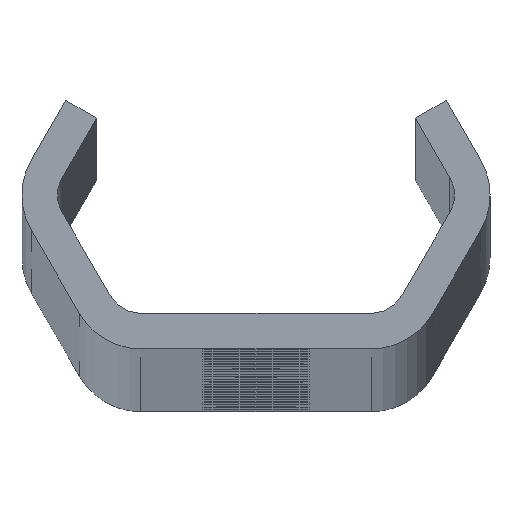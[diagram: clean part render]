
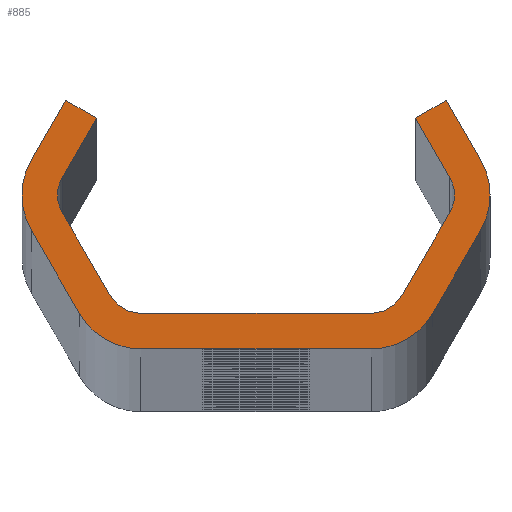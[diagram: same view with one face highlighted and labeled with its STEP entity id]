
A CAD part, top view. The second image highlights one B-rep face of the part: STEP entity #885.
In plain terms, the highlighted planar face has unit normal (0, 0, 1).
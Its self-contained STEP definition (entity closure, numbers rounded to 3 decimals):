
#885=ADVANCED_FACE('NONE',(#2477),#2478,.F.);
#2477=FACE_OUTER_BOUND('',#8127,.T.);
#2478=PLANE('',#8128);
#8127=EDGE_LOOP('',(#16497,#16498,#16499,#16500,#16501,#16502,#16503,#16504,#16505,#16506,#16507,#16508,#16509,#16510,#16511,#16512,#16513,#16514,#16515,#16516,#16517,#16518,#16519,#16520));
#8128=AXIS2_PLACEMENT_3D('',#16521,#16522,#16523);
#16497=ORIENTED_EDGE('',*,*,#22021,.T.);
#16498=ORIENTED_EDGE('',*,*,#22070,.T.);
#16499=ORIENTED_EDGE('',*,*,#21567,.T.);
#16500=ORIENTED_EDGE('',*,*,#22023,.T.);
#16501=ORIENTED_EDGE('',*,*,#22071,.T.);
#16502=ORIENTED_EDGE('',*,*,#22027,.T.);
#16503=ORIENTED_EDGE('',*,*,#22072,.T.);
#16504=ORIENTED_EDGE('',*,*,#21574,.T.);
#16505=ORIENTED_EDGE('',*,*,#22073,.T.);
#16506=ORIENTED_EDGE('',*,*,#21170,.T.);
#16507=ORIENTED_EDGE('',*,*,#21577,.T.);
#16508=ORIENTED_EDGE('',*,*,#21583,.T.);
#16509=ORIENTED_EDGE('',*,*,#21586,.T.);
#16510=ORIENTED_EDGE('',*,*,#21564,.T.);
#16511=ORIENTED_EDGE('',*,*,#22074,.T.);
#16512=ORIENTED_EDGE('',*,*,#21588,.T.);
#16513=ORIENTED_EDGE('',*,*,#22075,.T.);
#16514=ORIENTED_EDGE('',*,*,#21595,.T.);
#16515=ORIENTED_EDGE('',*,*,#22076,.T.);
#16516=ORIENTED_EDGE('',*,*,#22008,.T.);
#16517=ORIENTED_EDGE('',*,*,#22077,.T.);
#16518=ORIENTED_EDGE('',*,*,#21165,.T.);
#16519=ORIENTED_EDGE('',*,*,#22011,.T.);
#16520=ORIENTED_EDGE('',*,*,#22017,.T.);
#16521=CARTESIAN_POINT('',(0.0,0.0,3040.0));
#16522=DIRECTION('',(0.0,0.0,-1.0));
#16523=DIRECTION('',(0.0,-1.0,0.0));
#21165=EDGE_CURVE('NONE',#23576,#23580,#23582,.T.);
#21170=EDGE_CURVE('NONE',#23585,#23589,#23591,.T.);
#21564=EDGE_CURVE('NONE',#24300,#24298,#24301,.T.);
#21567=EDGE_CURVE('NONE',#24304,#24305,#24306,.T.);
#21574=EDGE_CURVE('NONE',#24318,#24316,#24319,.T.);
#21577=EDGE_CURVE('NONE',#23589,#24322,#24323,.T.);
#21583=EDGE_CURVE('NONE',#24322,#24330,#24332,.T.);
#21586=EDGE_CURVE('NONE',#24330,#24300,#24335,.T.);
#21588=EDGE_CURVE('NONE',#24337,#24338,#24339,.T.);
#21595=EDGE_CURVE('NONE',#24351,#24349,#24352,.T.);
#22008=EDGE_CURVE('NONE',#25118,#25116,#25119,.T.);
#22011=EDGE_CURVE('NONE',#23580,#25122,#25123,.T.);
#22017=EDGE_CURVE('NONE',#25122,#25130,#25132,.T.);
#22021=EDGE_CURVE('NONE',#25130,#25136,#25138,.T.);
#22023=EDGE_CURVE('NONE',#24305,#25140,#25141,.T.);
#22027=EDGE_CURVE('NONE',#25146,#25147,#25148,.T.);
#22070=EDGE_CURVE('NONE',#25136,#24304,#25193,.T.);
#22071=EDGE_CURVE('NONE',#25140,#25146,#25194,.T.);
#22072=EDGE_CURVE('NONE',#25147,#24318,#25195,.T.);
#22073=EDGE_CURVE('NONE',#24316,#23585,#25196,.T.);
#22074=EDGE_CURVE('NONE',#24298,#24337,#25197,.T.);
#22075=EDGE_CURVE('NONE',#24338,#24351,#25198,.T.);
#22076=EDGE_CURVE('NONE',#24349,#25118,#25199,.T.);
#22077=EDGE_CURVE('NONE',#25116,#23576,#25200,.T.);
#23576=VERTEX_POINT('',#27149);
#23580=VERTEX_POINT('NONE',#27154);
#23582=CIRCLE('',#27157,3.0);
#23585=VERTEX_POINT('',#27160);
#23589=VERTEX_POINT('NONE',#27165);
#23591=CIRCLE('',#27168,6.0);
#24298=VERTEX_POINT('NONE',#31451);
#24300=VERTEX_POINT('NONE',#31454);
#24301=CIRCLE('',#31455,3.0);
#24304=VERTEX_POINT('NONE',#31459);
#24305=VERTEX_POINT('NONE',#31460);
#24306=CIRCLE('',#31461,6.0);
#24316=VERTEX_POINT('NONE',#31474);
#24318=VERTEX_POINT('NONE',#31477);
#24319=LINE('',#31478,#31479);
#24322=VERTEX_POINT('NONE',#31483);
#24323=LINE('',#31484,#31485);
#24330=VERTEX_POINT('NONE',#31495);
#24332=LINE('',#31498,#31499);
#24335=LINE('',#31503,#31504);
#24337=VERTEX_POINT('NONE',#31506);
#24338=VERTEX_POINT('NONE',#31507);
#24339=LINE('',#31508,#31509);
#24349=VERTEX_POINT('NONE',#31523);
#24351=VERTEX_POINT('NONE',#31526);
#24352=LINE('',#31527,#31528);
#25116=VERTEX_POINT('NONE',#34294);
#25118=VERTEX_POINT('NONE',#34297);
#25119=LINE('',#34298,#34299);
#25122=VERTEX_POINT('NONE',#34303);
#25123=LINE('',#34304,#34305);
#25130=VERTEX_POINT('NONE',#34315);
#25132=LINE('',#34318,#34319);
#25136=VERTEX_POINT('NONE',#34324);
#25138=LINE('',#34327,#34328);
#25140=VERTEX_POINT('NONE',#34330);
#25141=LINE('',#34331,#34332);
#25146=VERTEX_POINT('NONE',#34339);
#25147=VERTEX_POINT('NONE',#34340);
#25148=LINE('',#34341,#34342);
#25193=CIRCLE('',#34390,6.0);
#25194=CIRCLE('',#34391,6.0);
#25195=CIRCLE('',#34392,6.0);
#25196=CIRCLE('',#34393,6.0);
#25197=CIRCLE('',#34394,3.0);
#25198=CIRCLE('',#34395,3.0);
#25199=CIRCLE('',#34396,3.0);
#25200=CIRCLE('',#34397,3.0);
#27149=CARTESIAN_POINT('',(-16.764,0.,3040.0));
#27154=CARTESIAN_POINT('',(-16.362,1.5,3040.0));
#27157=AXIS2_PLACEMENT_3D('',#40849,#40850,#40851);
#27160=CARTESIAN_POINT('',(19.764,0.,3040.0));
#27165=CARTESIAN_POINT('',(18.96,3.,3040.0));
#27168=AXIS2_PLACEMENT_3D('',#40857,#40858,#40859);
#31451=CARTESIAN_POINT('',(16.764,0.,3040.0));
#31454=CARTESIAN_POINT('',(16.362,1.5,3040.0));
#31455=AXIS2_PLACEMENT_3D('',#41248,#41249,#41250);
#31459=CARTESIAN_POINT('',(-19.764,0.,3040.0));
#31460=CARTESIAN_POINT('',(-18.96,-3.,3040.0));
#31461=AXIS2_PLACEMENT_3D('',#41252,#41253,#41254);
#31474=CARTESIAN_POINT('',(18.96,-3.,3040.0));
#31477=CARTESIAN_POINT('',(14.919,-10.,3040.0));
#31478=CARTESIAN_POINT('',(20.692,0.,3040.0));
#31479=VECTOR('',#41262,1000.0);
#31483=CARTESIAN_POINT('',(16.074,8.,3040.0));
#31484=CARTESIAN_POINT('',(16.074,8.,3040.0));
#31485=VECTOR('',#41264,1000.0);
#31495=CARTESIAN_POINT('',(13.475,6.5,3040.0));
#31498=CARTESIAN_POINT('',(13.475,6.5,3040.0));
#31499=VECTOR('',#41269,1000.0);
#31503=CARTESIAN_POINT('',(17.228,0.,3040.0));
#31504=VECTOR('',#41271,1000.0);
#31506=CARTESIAN_POINT('',(16.362,-1.5,3040.0));
#31507=CARTESIAN_POINT('',(12.321,-8.5,3040.0));
#31508=CARTESIAN_POINT('',(11.455,-10.0,3040.0));
#31509=VECTOR('',#41272,1000.0);
#31523=CARTESIAN_POINT('',(-9.723,-10.0,3040.0));
#31526=CARTESIAN_POINT('',(9.723,-10.0,3040.0));
#31527=CARTESIAN_POINT('',(-11.455,-10.0,3040.0));
#31528=VECTOR('',#41278,1000.0);
#34294=CARTESIAN_POINT('',(-16.362,-1.5,3040.0));
#34297=CARTESIAN_POINT('',(-12.321,-8.5,3040.0));
#34298=CARTESIAN_POINT('',(-17.228,0.,3040.0));
#34299=VECTOR('',#41726,1000.0);
#34303=CARTESIAN_POINT('',(-13.475,6.5,3040.0));
#34304=CARTESIAN_POINT('',(-13.475,6.5,3040.0));
#34305=VECTOR('',#41728,1000.0);
#34315=CARTESIAN_POINT('',(-16.074,8.,3040.0));
#34318=CARTESIAN_POINT('',(-13.475,6.5,3040.0));
#34319=VECTOR('',#41733,1000.0);
#34324=CARTESIAN_POINT('',(-18.96,3.,3040.0));
#34327=CARTESIAN_POINT('',(-16.074,8.,3040.0));
#34328=VECTOR('',#41736,1000.0);
#34330=CARTESIAN_POINT('',(-14.919,-10.,3040.0));
#34331=CARTESIAN_POINT('',(-20.692,0.,3040.0));
#34332=VECTOR('',#41737,1000.0);
#34339=CARTESIAN_POINT('',(-9.723,-13.0,3040.0));
#34340=CARTESIAN_POINT('',(9.723,-13.0,3040.0));
#34341=CARTESIAN_POINT('',(-13.187,-13.0,3040.0));
#34342=VECTOR('',#41740,1000.0);
#34390=AXIS2_PLACEMENT_3D('',#41858,#41859,#41860);
#34391=AXIS2_PLACEMENT_3D('',#41861,#41862,#41863);
#34392=AXIS2_PLACEMENT_3D('',#41864,#41865,#41866);
#34393=AXIS2_PLACEMENT_3D('',#41867,#41868,#41869);
#34394=AXIS2_PLACEMENT_3D('',#41870,#41871,#41872);
#34395=AXIS2_PLACEMENT_3D('',#41873,#41874,#41875);
#34396=AXIS2_PLACEMENT_3D('',#41876,#41877,#41878);
#34397=AXIS2_PLACEMENT_3D('',#41879,#41880,#41881);
#40849=CARTESIAN_POINT('',(-13.764,0.,3040.0));
#40850=DIRECTION('',(0.0,0.0,-1.0));
#40851=DIRECTION('',(-1.0,0.0,0.0));
#40857=CARTESIAN_POINT('',(13.764,0.,3040.0));
#40858=DIRECTION('',(0.0,0.0,1.0));
#40859=DIRECTION('',(-1.0,0.0,0.0));
#41248=CARTESIAN_POINT('',(13.764,0.,3040.0));
#41249=DIRECTION('',(0.0,0.0,-1.0));
#41250=DIRECTION('',(-1.0,0.0,0.0));
#41252=CARTESIAN_POINT('',(-13.764,0.,3040.0));
#41253=DIRECTION('',(0.0,0.0,1.0));
#41254=DIRECTION('',(-1.0,0.0,0.0));
#41262=DIRECTION('',(0.5,0.866,-0.0));
#41264=DIRECTION('',(-0.5,0.866,-0.0));
#41269=DIRECTION('',(-0.866,-0.5,-0.0));
#41271=DIRECTION('',(0.5,-0.866,-0.0));
#41272=DIRECTION('',(-0.5,-0.866,-0.0));
#41278=DIRECTION('',(-1.0,0.,-0.0));
#41726=DIRECTION('',(-0.5,0.866,-0.0));
#41728=DIRECTION('',(0.5,0.866,-0.0));
#41733=DIRECTION('',(-0.866,0.5,0.0));
#41736=DIRECTION('',(-0.5,-0.866,0.0));
#41737=DIRECTION('',(0.5,-0.866,0.0));
#41740=DIRECTION('',(1.0,0.0,0.0));
#41858=CARTESIAN_POINT('',(-13.764,0.,3040.0));
#41859=DIRECTION('',(0.0,0.0,1.0));
#41860=DIRECTION('',(-1.0,0.,0.0));
#41861=CARTESIAN_POINT('',(-9.723,-7.0,3040.0));
#41862=DIRECTION('',(0.0,0.0,1.0));
#41863=DIRECTION('',(-1.0,0.0,0.0));
#41864=CARTESIAN_POINT('',(9.723,-7.0,3040.0));
#41865=DIRECTION('',(0.0,0.0,1.0));
#41866=DIRECTION('',(-1.0,0.,0.0));
#41867=CARTESIAN_POINT('',(13.764,0.,3040.0));
#41868=DIRECTION('',(0.0,0.0,1.0));
#41869=DIRECTION('',(-1.0,0.0,0.0));
#41870=CARTESIAN_POINT('',(13.764,0.,3040.0));
#41871=DIRECTION('',(0.0,0.0,-1.0));
#41872=DIRECTION('',(-1.0,0.0,0.0));
#41873=CARTESIAN_POINT('',(9.723,-7.0,3040.0));
#41874=DIRECTION('',(0.0,0.0,-1.0));
#41875=DIRECTION('',(-1.0,0.0,0.0));
#41876=CARTESIAN_POINT('',(-9.723,-7.0,3040.0));
#41877=DIRECTION('',(0.0,0.0,-1.0));
#41878=DIRECTION('',(-1.0,0.0,0.0));
#41879=CARTESIAN_POINT('',(-13.764,0.,3040.0));
#41880=DIRECTION('',(0.0,0.0,-1.0));
#41881=DIRECTION('',(-1.0,0.0,0.0));
